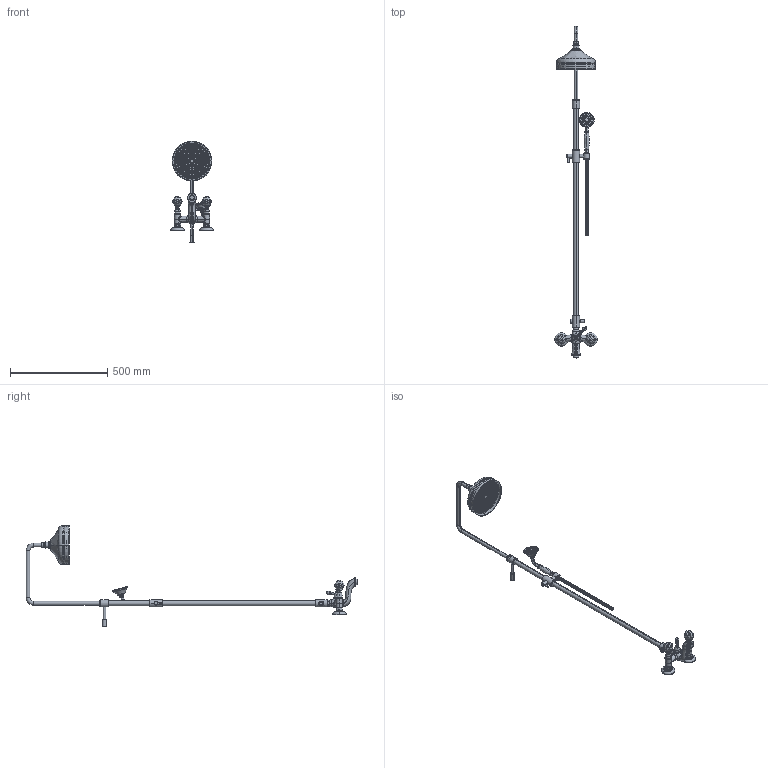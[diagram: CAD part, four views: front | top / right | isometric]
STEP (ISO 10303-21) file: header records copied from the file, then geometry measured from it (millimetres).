
FILE_DESCRIPTION((''),'2;1');
FILE_NAME('F5084_2C_FILE_3D','2013-09-18T',('ivanv'),(''),'PRO/ENGINEER BY PARAMETRIC TECHNOLOGY CORPORATION, 2012130','PRO/ENGINEER BY PARAMETRIC TECHNOLOGY CORPORATION, 2012130','');
FILE_SCHEMA(('CONFIG_CONTROL_DESIGN'));
Products named in the file (1): F5084_2C_FILE_3D
Bounding box: 220 x 1709.7 x 524 mm (x, y, z)
Volume: 2789225.8 mm3; surface area: 598179.3 mm2
Topology: 9 solids, 9 shells, 2599 faces, 5767 edges, 3419 vertices
Faces by surface type: cylinder 955, plane 776, cone 514, torus 206, bspline 136, sphere 12
Entity records: 141106 total; most frequent: CARTESIAN_POINT 83718, DIRECTION 12325, ORIENTED_EDGE 11522, EDGE_CURVE 5761, AXIS2_PLACEMENT_3D 5003, VERTEX_POINT 3419, EDGE_LOOP 3020, FACE_OUTER_BOUND 2599
